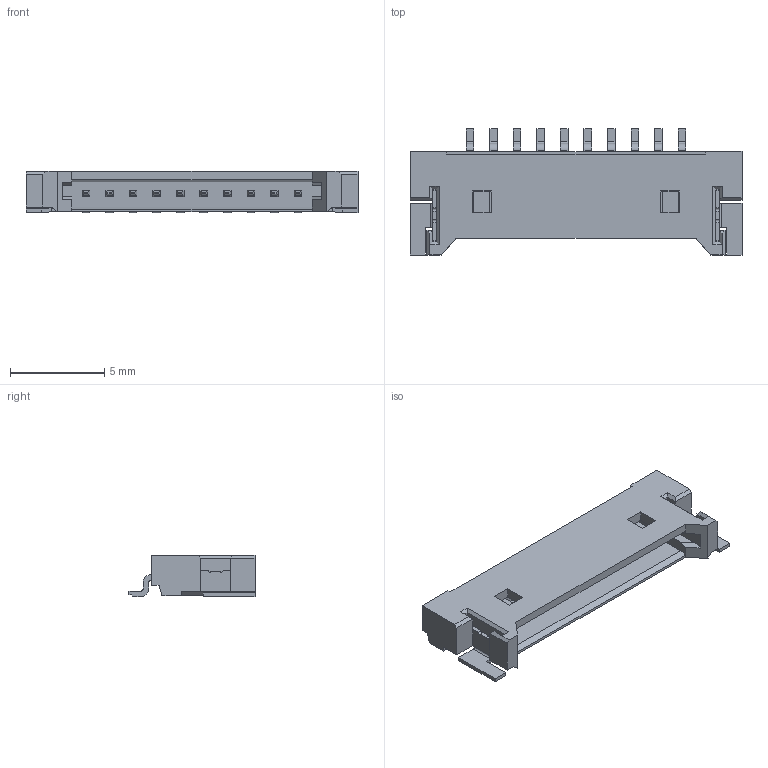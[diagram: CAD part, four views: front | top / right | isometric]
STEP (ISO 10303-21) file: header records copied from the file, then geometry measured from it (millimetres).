
FILE_DESCRIPTION((''),'2;1');
FILE_NAME('S-50279-010XX-Q01','2022-08-02T',('k94555'),(''),'PRO/ENGINEER BY PARAMETRIC TECHNOLOGY CORPORATION, 2009360','PRO/ENGINEER BY PARAMETRIC TECHNOLOGY CORPORATION, 2009360','');
FILE_SCHEMA(('CONFIG_CONTROL_DESIGN'));
Length unit declared in the file: millimetre
Products named in the file (1): S-50279-010XX-Q01
Bounding box: 17.65 x 6.7 x 2.2 mm (x, y, z)
Volume: 97.5 mm3; surface area: 456.7 mm2
Topology: 1 solids, 25 shells, 633 faces, 1605 edges, 1044 vertices
Faces by surface type: plane 577, cylinder 56
Entity records: 18646 total; most frequent: CARTESIAN_POINT 3265, ORIENTED_EDGE 3114, DIRECTION 3049, EDGE_CURVE 1557, VECTOR 1489, LINE 1489, VERTEX_POINT 996, AXIS2_PLACEMENT_3D 780
